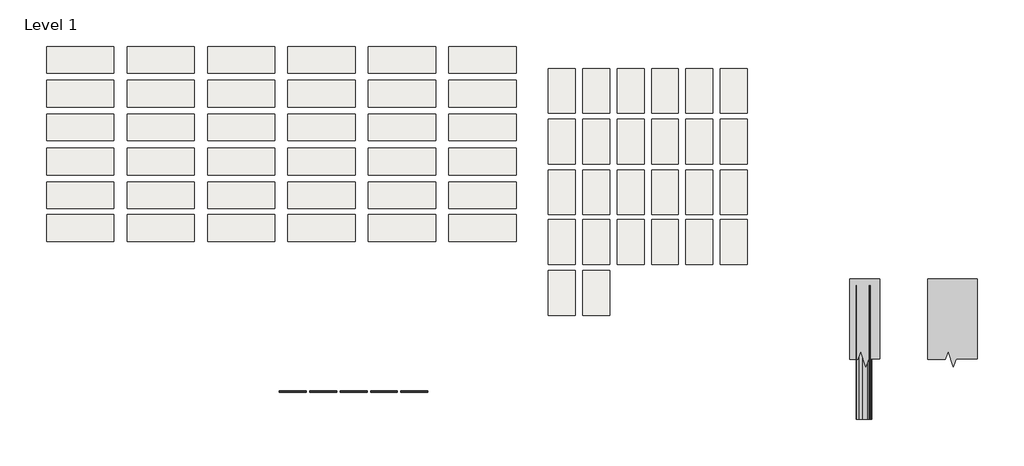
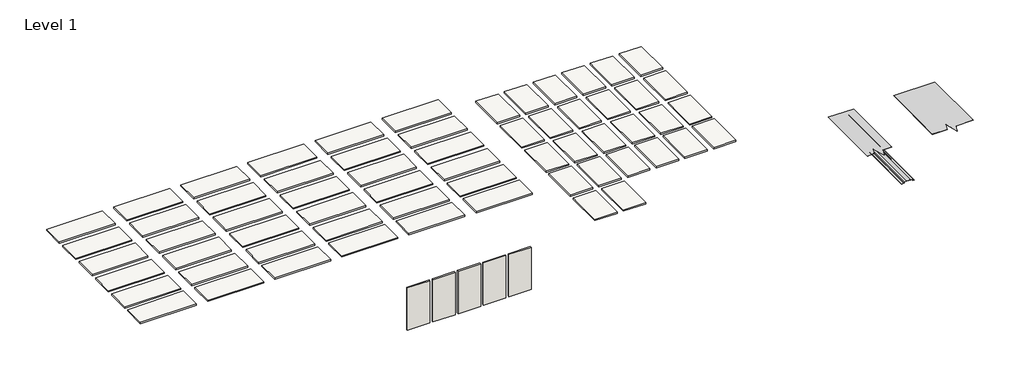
# One storey: 62 slabs, 5 walls, 3 proxies.
"""IFC4 building model written with IfcOpenShell, lengths in millimetres."""

from ifc_helpers import new_model, si_unit, frame, origin, origin_with_axes, place, context, project, spatial, polyline, outline, extrude, transform, mapped, element, save
from components import proxy_6c993777, section_mask1_section_mask_d04c1bcf, section_mask2_section_mask_c10595b2

model = new_model("IFC4")

# Units and contexts
model_context = context("Model", 3, world=origin())
ifc_project = project(units=[si_unit("LENGTHUNIT", "METRE", prefix="MILLI")], contexts=[model_context])

# Site, building, storey
site = spatial("IfcSite", under=ifc_project)
building = spatial("IfcBuilding", under=site)
storey = spatial("IfcBuildingStorey", under=building, Name="Level 1", Elevation=0.0)

# Proxies
placement = place(None, origin())
proxy_shape = proxy_6c993777(model_context)
element("IfcBuildingElementProxy", 1, Name="Metal_Siding_Reveal-Wall-Panel_Steelscape : 12\" Reveal Wall Panel", ObjectType="Metal_Siding_Reveal-Wall-Panel_Steelscape : 12\" Reveal Wall Panel", at=placement, inside=storey, context=model_context, shape_type="MappedRepresentation", body=[
    mapped(proxy_shape, transform((8066.2424454, 2573.2522943, 0.0), x_axis=(1.0, 0.0, 0.0), y_axis=(0.0, 1.0, 0.0), z_axis=(0.0, 0.0, 1.0))),
])
section_mask1_section_mask_shape = section_mask1_section_mask_d04c1bcf(model_context)
element("IfcBuildingElementProxy", 2, Name="Section Mask1 : Section Mask", ObjectType="Section Mask1 : Section Mask", at=placement, inside=storey, context=model_context, shape_type="MappedRepresentation", body=[
    mapped(section_mask1_section_mask_shape, transform((1955.8, 0.0, 0.0), x_axis=(1.0, 0.0, 0.0), y_axis=(0.0, 1.0, 0.0), z_axis=(0.0, 0.0, 1.0))),
])
section_mask2_section_mask_shape = section_mask2_section_mask_c10595b2(model_context)
element("IfcBuildingElementProxy", 3, Name="Section Mask2 : Section Mask", ObjectType="Section Mask2 : Section Mask", at=placement, inside=storey, context=model_context, shape_type="MappedRepresentation", body=[
    mapped(section_mask2_section_mask_shape, transform((-31.75, 0.0, 0.0), x_axis=(1.0, 0.0, 0.0), y_axis=(0.0, 1.0, 0.0), z_axis=(0.0, 0.0, 1.0))),
])

# Slabs
element("IfcSlab", 4, ObjectType="Metal Siding - PAINTED - Steelscape", at=placement, inside=storey, context=model_context, shape_type="SweptSolid", body=[
    extrude(outline(polyline([(-9006.1610252, 7398.0362798), (-10530.1610252, 7398.0362798), (-10530.1610252, 8007.6362798), (-9006.1610252, 8007.6362798), (-9006.1610252, 7398.0362798)])), frame((0.0, 0.0, -38.1), z_axis=(0.0, 0.0, 1.0), x_axis=(1.0, 0.0, 0.0)), (0.0, 0.0, 1.0), 38.1),
])
element("IfcSlab", 5, ObjectType="Metal Siding - PAINTED - Steelscape", at=placement, inside=storey, context=model_context, shape_type="SweptSolid", body=[
    extrude(outline(polyline([(-9006.1610252, 6629.6862798), (-10530.1610252, 6629.6862798), (-10530.1610252, 7239.2862798), (-9006.1610252, 7239.2862798), (-9006.1610252, 6629.6862798)])), frame((0.0, 0.0, -38.1), z_axis=(0.0, 0.0, 1.0), x_axis=(1.0, 0.0, 0.0)), (0.0, 0.0, 1.0), 38.1),
])
element("IfcSlab", 6, ObjectType="Metal Siding - PAINTED - Steelscape", at=placement, inside=storey, context=model_context, shape_type="SweptSolid", body=[
    extrude(outline(polyline([(-9006.1610252, 5861.3362798), (-10530.1610252, 5861.3362798), (-10530.1610252, 6470.9362798), (-9006.1610252, 6470.9362798), (-9006.1610252, 5861.3362798)])), frame((0.0, 0.0, -38.1), z_axis=(0.0, 0.0, 1.0), x_axis=(1.0, 0.0, 0.0)), (0.0, 0.0, 1.0), 38.1),
])
element("IfcSlab", 7, ObjectType="Metal Siding - PAINTED - Steelscape", at=placement, inside=storey, context=model_context, shape_type="SweptSolid", body=[
    extrude(outline(polyline([(-9006.1610252, 5086.6362798), (-10530.1610252, 5086.6362798), (-10530.1610252, 5696.2362798), (-9006.1610252, 5696.2362798), (-9006.1610252, 5086.6362798)])), frame((0.0, 0.0, -38.1), z_axis=(0.0, 0.0, 1.0), x_axis=(1.0, 0.0, 0.0)), (0.0, 0.0, 1.0), 38.1),
])
element("IfcSlab", 8, ObjectType="Metal Siding - PAINTED - Steelscape", at=placement, inside=storey, context=model_context, shape_type="SweptSolid", body=[
    extrude(outline(polyline([(-9006.1610252, 4318.2862798), (-10530.1610252, 4318.2862798), (-10530.1610252, 4927.8862798), (-9006.1610252, 4927.8862798), (-9006.1610252, 4318.2862798)])), frame((0.0, 0.0, -38.1), z_axis=(0.0, 0.0, 1.0), x_axis=(1.0, 0.0, 0.0)), (0.0, 0.0, 1.0), 38.1),
])
element("IfcSlab", 9, ObjectType="Metal Siding - PAINTED - Steelscape", at=placement, inside=storey, context=model_context, shape_type="SweptSolid", body=[
    extrude(outline(polyline([(-9006.1610252, 3575.3362798), (-10530.1610252, 3575.3362798), (-10530.1610252, 4184.9362798), (-9006.1610252, 4184.9362798), (-9006.1610252, 3575.3362798)])), frame((0.0, 0.0, -38.1), z_axis=(0.0, 0.0, 1.0), x_axis=(1.0, 0.0, 0.0)), (0.0, 0.0, 1.0), 38.1),
])
element("IfcSlab", 10, ObjectType="Metal Siding - PAINTED - Steelscape", at=placement, inside=storey, context=model_context, shape_type="SweptSolid", body=[
    extrude(outline(polyline([(-7177.3610252, 7398.0362798), (-8701.3610252, 7398.0362798), (-8701.3610252, 8007.6362798), (-7177.3610252, 8007.6362798), (-7177.3610252, 7398.0362798)])), frame((0.0, 0.0, -38.1), z_axis=(0.0, 0.0, 1.0), x_axis=(1.0, 0.0, 0.0)), (0.0, 0.0, 1.0), 38.1),
])
element("IfcSlab", 11, ObjectType="Metal Siding - PAINTED - Steelscape", at=placement, inside=storey, context=model_context, shape_type="SweptSolid", body=[
    extrude(outline(polyline([(-7177.3610252, 6629.6862798), (-8701.3610252, 6629.6862798), (-8701.3610252, 7239.2862798), (-7177.3610252, 7239.2862798), (-7177.3610252, 6629.6862798)])), frame((0.0, 0.0, -38.1), z_axis=(0.0, 0.0, 1.0), x_axis=(1.0, 0.0, 0.0)), (0.0, 0.0, 1.0), 38.1),
])
element("IfcSlab", 12, ObjectType="Metal Siding - PAINTED - Steelscape", at=placement, inside=storey, context=model_context, shape_type="SweptSolid", body=[
    extrude(outline(polyline([(-7177.3610252, 5861.3362798), (-8701.3610252, 5861.3362798), (-8701.3610252, 6470.9362798), (-7177.3610252, 6470.9362798), (-7177.3610252, 5861.3362798)])), frame((0.0, 0.0, -38.1), z_axis=(0.0, 0.0, 1.0), x_axis=(1.0, 0.0, 0.0)), (0.0, 0.0, 1.0), 38.1),
])
element("IfcSlab", 13, ObjectType="Metal Siding - PAINTED - Steelscape", at=placement, inside=storey, context=model_context, shape_type="SweptSolid", body=[
    extrude(outline(polyline([(-7177.3610252, 5086.6362798), (-8701.3610252, 5086.6362798), (-8701.3610252, 5696.2362798), (-7177.3610252, 5696.2362798), (-7177.3610252, 5086.6362798)])), frame((0.0, 0.0, -38.1), z_axis=(0.0, 0.0, 1.0), x_axis=(1.0, 0.0, 0.0)), (0.0, 0.0, 1.0), 38.1),
])
element("IfcSlab", 14, ObjectType="Metal Siding - PAINTED - Steelscape", at=placement, inside=storey, context=model_context, shape_type="SweptSolid", body=[
    extrude(outline(polyline([(-7177.3610252, 4318.2862798), (-8701.3610252, 4318.2862798), (-8701.3610252, 4927.8862798), (-7177.3610252, 4927.8862798), (-7177.3610252, 4318.2862798)])), frame((0.0, 0.0, -38.1), z_axis=(0.0, 0.0, 1.0), x_axis=(1.0, 0.0, 0.0)), (0.0, 0.0, 1.0), 38.1),
])
element("IfcSlab", 15, ObjectType="Metal Siding - PAINTED - Steelscape", at=placement, inside=storey, context=model_context, shape_type="SweptSolid", body=[
    extrude(outline(polyline([(-7177.3610252, 3575.3362798), (-8701.3610252, 3575.3362798), (-8701.3610252, 4184.9362798), (-7177.3610252, 4184.9362798), (-7177.3610252, 3575.3362798)])), frame((0.0, 0.0, -38.1), z_axis=(0.0, 0.0, 1.0), x_axis=(1.0, 0.0, 0.0)), (0.0, 0.0, 1.0), 38.1),
])
element("IfcSlab", 16, ObjectType="Metal Siding - PAINTED - Steelscape", at=placement, inside=storey, context=model_context, shape_type="SweptSolid", body=[
    extrude(outline(polyline([(-5348.5610252, 7398.0362798), (-6872.5610252, 7398.0362798), (-6872.5610252, 8007.6362798), (-5348.5610252, 8007.6362798), (-5348.5610252, 7398.0362798)])), frame((0.0, 0.0, -38.1), z_axis=(0.0, 0.0, 1.0), x_axis=(1.0, 0.0, 0.0)), (0.0, 0.0, 1.0), 38.1),
])
element("IfcSlab", 17, ObjectType="Metal Siding - PAINTED - Steelscape", at=placement, inside=storey, context=model_context, shape_type="SweptSolid", body=[
    extrude(outline(polyline([(-5348.5610252, 6629.6862798), (-6872.5610252, 6629.6862798), (-6872.5610252, 7239.2862798), (-5348.5610252, 7239.2862798), (-5348.5610252, 6629.6862798)])), frame((0.0, 0.0, -38.1), z_axis=(0.0, 0.0, 1.0), x_axis=(1.0, 0.0, 0.0)), (0.0, 0.0, 1.0), 38.1),
])
element("IfcSlab", 18, ObjectType="Metal Siding - PAINTED - Steelscape", at=placement, inside=storey, context=model_context, shape_type="SweptSolid", body=[
    extrude(outline(polyline([(-5348.5610252, 5861.3362798), (-6872.5610252, 5861.3362798), (-6872.5610252, 6470.9362798), (-5348.5610252, 6470.9362798), (-5348.5610252, 5861.3362798)])), frame((0.0, 0.0, -38.1), z_axis=(0.0, 0.0, 1.0), x_axis=(1.0, 0.0, 0.0)), (0.0, 0.0, 1.0), 38.1),
])
element("IfcSlab", 19, ObjectType="Metal Siding - PAINTED - Steelscape", at=placement, inside=storey, context=model_context, shape_type="SweptSolid", body=[
    extrude(outline(polyline([(-5348.5610252, 5086.6362798), (-6872.5610252, 5086.6362798), (-6872.5610252, 5696.2362798), (-5348.5610252, 5696.2362798), (-5348.5610252, 5086.6362798)])), frame((0.0, 0.0, -38.1), z_axis=(0.0, 0.0, 1.0), x_axis=(1.0, 0.0, 0.0)), (0.0, 0.0, 1.0), 38.1),
])
element("IfcSlab", 20, ObjectType="Metal Siding - PAINTED - Steelscape", at=placement, inside=storey, context=model_context, shape_type="SweptSolid", body=[
    extrude(outline(polyline([(-5348.5610252, 4318.2862798), (-6872.5610252, 4318.2862798), (-6872.5610252, 4927.8862798), (-5348.5610252, 4927.8862798), (-5348.5610252, 4318.2862798)])), frame((0.0, 0.0, -38.1), z_axis=(0.0, 0.0, 1.0), x_axis=(1.0, 0.0, 0.0)), (0.0, 0.0, 1.0), 38.1),
])
element("IfcSlab", 21, ObjectType="Metal Siding - PAINTED - Steelscape", at=placement, inside=storey, context=model_context, shape_type="SweptSolid", body=[
    extrude(outline(polyline([(-5348.5610252, 3575.3362798), (-6872.5610252, 3575.3362798), (-6872.5610252, 4184.9362798), (-5348.5610252, 4184.9362798), (-5348.5610252, 3575.3362798)])), frame((0.0, 0.0, -38.1), z_axis=(0.0, 0.0, 1.0), x_axis=(1.0, 0.0, 0.0)), (0.0, 0.0, 1.0), 38.1),
])
element("IfcSlab", 22, ObjectType="Metal Siding - PAINTED - Steelscape", at=placement, inside=storey, context=model_context, shape_type="SweptSolid", body=[
    extrude(outline(polyline([(-3519.7610252, 7398.0362798), (-5043.7610252, 7398.0362798), (-5043.7610252, 8007.6362798), (-3519.7610252, 8007.6362798), (-3519.7610252, 7398.0362798)])), frame((0.0, 0.0, -38.1), z_axis=(0.0, 0.0, 1.0), x_axis=(1.0, 0.0, 0.0)), (0.0, 0.0, 1.0), 38.1),
])
element("IfcSlab", 23, ObjectType="Metal Siding - PAINTED - Steelscape", at=placement, inside=storey, context=model_context, shape_type="SweptSolid", body=[
    extrude(outline(polyline([(-3519.7610252, 6629.6862798), (-5043.7610252, 6629.6862798), (-5043.7610252, 7239.2862798), (-3519.7610252, 7239.2862798), (-3519.7610252, 6629.6862798)])), frame((0.0, 0.0, -38.1), z_axis=(0.0, 0.0, 1.0), x_axis=(1.0, 0.0, 0.0)), (0.0, 0.0, 1.0), 38.1),
])
element("IfcSlab", 24, ObjectType="Metal Siding - PAINTED - Steelscape", at=placement, inside=storey, context=model_context, shape_type="SweptSolid", body=[
    extrude(outline(polyline([(-3519.7610252, 5861.3362798), (-5043.7610252, 5861.3362798), (-5043.7610252, 6470.9362798), (-3519.7610252, 6470.9362798), (-3519.7610252, 5861.3362798)])), frame((0.0, 0.0, -38.1), z_axis=(0.0, 0.0, 1.0), x_axis=(1.0, 0.0, 0.0)), (0.0, 0.0, 1.0), 38.1),
])
element("IfcSlab", 25, ObjectType="Metal Siding - PAINTED - Steelscape", at=placement, inside=storey, context=model_context, shape_type="SweptSolid", body=[
    extrude(outline(polyline([(-3519.7610252, 5086.6362798), (-5043.7610252, 5086.6362798), (-5043.7610252, 5696.2362798), (-3519.7610252, 5696.2362798), (-3519.7610252, 5086.6362798)])), frame((0.0, 0.0, -38.1), z_axis=(0.0, 0.0, 1.0), x_axis=(1.0, 0.0, 0.0)), (0.0, 0.0, 1.0), 38.1),
])
element("IfcSlab", 26, ObjectType="Metal Siding - PAINTED - Steelscape", at=placement, inside=storey, context=model_context, shape_type="SweptSolid", body=[
    extrude(outline(polyline([(-3519.7610252, 4318.2862798), (-5043.7610252, 4318.2862798), (-5043.7610252, 4927.8862798), (-3519.7610252, 4927.8862798), (-3519.7610252, 4318.2862798)])), frame((0.0, 0.0, -38.1), z_axis=(0.0, 0.0, 1.0), x_axis=(1.0, 0.0, 0.0)), (0.0, 0.0, 1.0), 38.1),
])
element("IfcSlab", 27, ObjectType="Metal Siding - PAINTED - Steelscape", at=placement, inside=storey, context=model_context, shape_type="SweptSolid", body=[
    extrude(outline(polyline([(-3519.7610252, 3575.3362798), (-5043.7610252, 3575.3362798), (-5043.7610252, 4184.9362798), (-3519.7610252, 4184.9362798), (-3519.7610252, 3575.3362798)])), frame((0.0, 0.0, -38.1), z_axis=(0.0, 0.0, 1.0), x_axis=(1.0, 0.0, 0.0)), (0.0, 0.0, 1.0), 38.1),
])
element("IfcSlab", 28, ObjectType="Metal Siding - PAINTED - Steelscape", at=placement, inside=storey, context=model_context, shape_type="SweptSolid", body=[
    extrude(outline(polyline([(-1690.9610252, 7398.0362798), (-3214.9610252, 7398.0362798), (-3214.9610252, 8007.6362798), (-1690.9610252, 8007.6362798), (-1690.9610252, 7398.0362798)])), frame((0.0, 0.0, -38.1), z_axis=(0.0, 0.0, 1.0), x_axis=(1.0, 0.0, 0.0)), (0.0, 0.0, 1.0), 38.1),
])
element("IfcSlab", 29, ObjectType="Metal Siding - PAINTED - Steelscape", at=placement, inside=storey, context=model_context, shape_type="SweptSolid", body=[
    extrude(outline(polyline([(-1690.9610252, 6629.6862798), (-3214.9610252, 6629.6862798), (-3214.9610252, 7239.2862798), (-1690.9610252, 7239.2862798), (-1690.9610252, 6629.6862798)])), frame((0.0, 0.0, -38.1), z_axis=(0.0, 0.0, 1.0), x_axis=(1.0, 0.0, 0.0)), (0.0, 0.0, 1.0), 38.1),
])
element("IfcSlab", 30, ObjectType="Metal Siding - PAINTED - Steelscape", at=placement, inside=storey, context=model_context, shape_type="SweptSolid", body=[
    extrude(outline(polyline([(-1690.9610252, 5861.3362798), (-3214.9610252, 5861.3362798), (-3214.9610252, 6470.9362798), (-1690.9610252, 6470.9362798), (-1690.9610252, 5861.3362798)])), frame((0.0, 0.0, -38.1), z_axis=(0.0, 0.0, 1.0), x_axis=(1.0, 0.0, 0.0)), (0.0, 0.0, 1.0), 38.1),
])
element("IfcSlab", 31, ObjectType="Metal Siding - PAINTED - Steelscape", at=placement, inside=storey, context=model_context, shape_type="SweptSolid", body=[
    extrude(outline(polyline([(-1690.9610252, 5086.6362798), (-3214.9610252, 5086.6362798), (-3214.9610252, 5696.2362798), (-1690.9610252, 5696.2362798), (-1690.9610252, 5086.6362798)])), frame((0.0, 0.0, -38.1), z_axis=(0.0, 0.0, 1.0), x_axis=(1.0, 0.0, 0.0)), (0.0, 0.0, 1.0), 38.1),
])
element("IfcSlab", 32, ObjectType="Metal Siding - PAINTED - Steelscape", at=placement, inside=storey, context=model_context, shape_type="SweptSolid", body=[
    extrude(outline(polyline([(-1690.9610252, 4318.2862798), (-3214.9610252, 4318.2862798), (-3214.9610252, 4927.8862798), (-1690.9610252, 4927.8862798), (-1690.9610252, 4318.2862798)])), frame((0.0, 0.0, -38.1), z_axis=(0.0, 0.0, 1.0), x_axis=(1.0, 0.0, 0.0)), (0.0, 0.0, 1.0), 38.1),
])
element("IfcSlab", 33, ObjectType="Metal Siding - PAINTED - Steelscape", at=placement, inside=storey, context=model_context, shape_type="SweptSolid", body=[
    extrude(outline(polyline([(-1690.9610252, 3575.3362798), (-3214.9610252, 3575.3362798), (-3214.9610252, 4184.9362798), (-1690.9610252, 4184.9362798), (-1690.9610252, 3575.3362798)])), frame((0.0, 0.0, -38.1), z_axis=(0.0, 0.0, 1.0), x_axis=(1.0, 0.0, 0.0)), (0.0, 0.0, 1.0), 38.1),
])
element("IfcSlab", 34, ObjectType="Metal Siding - PAINTED - Steelscape", at=placement, inside=storey, context=model_context, shape_type="SweptSolid", body=[
    extrude(outline(polyline([(137.8389748, 7398.0362798), (-1386.1610252, 7398.0362798), (-1386.1610252, 8007.6362798), (137.8389748, 8007.6362798), (137.8389748, 7398.0362798)])), frame((0.0, 0.0, -38.1), z_axis=(0.0, 0.0, 1.0), x_axis=(1.0, 0.0, 0.0)), (0.0, 0.0, 1.0), 38.1),
])
element("IfcSlab", 35, ObjectType="Metal Siding - PAINTED - Steelscape", at=placement, inside=storey, context=model_context, shape_type="SweptSolid", body=[
    extrude(outline(polyline([(137.8389748, 6629.6862798), (-1386.1610252, 6629.6862798), (-1386.1610252, 7239.2862798), (137.8389748, 7239.2862798), (137.8389748, 6629.6862798)])), frame((0.0, 0.0, -38.1), z_axis=(0.0, 0.0, 1.0), x_axis=(1.0, 0.0, 0.0)), (0.0, 0.0, 1.0), 38.1),
])
element("IfcSlab", 36, ObjectType="Metal Siding - PAINTED - Steelscape", at=placement, inside=storey, context=model_context, shape_type="SweptSolid", body=[
    extrude(outline(polyline([(137.8389748, 5861.3362798), (-1386.1610252, 5861.3362798), (-1386.1610252, 6470.9362798), (137.8389748, 6470.9362798), (137.8389748, 5861.3362798)])), frame((0.0, 0.0, -38.1), z_axis=(0.0, 0.0, 1.0), x_axis=(1.0, 0.0, 0.0)), (0.0, 0.0, 1.0), 38.1),
])
element("IfcSlab", 37, ObjectType="Metal Siding - PAINTED - Steelscape", at=placement, inside=storey, context=model_context, shape_type="SweptSolid", body=[
    extrude(outline(polyline([(137.8389748, 5086.6362798), (-1386.1610252, 5086.6362798), (-1386.1610252, 5696.2362798), (137.8389748, 5696.2362798), (137.8389748, 5086.6362798)])), frame((0.0, 0.0, -38.1), z_axis=(0.0, 0.0, 1.0), x_axis=(1.0, 0.0, 0.0)), (0.0, 0.0, 1.0), 38.1),
])
element("IfcSlab", 38, ObjectType="Metal Siding - PAINTED - Steelscape", at=placement, inside=storey, context=model_context, shape_type="SweptSolid", body=[
    extrude(outline(polyline([(137.8389748, 4318.2862798), (-1386.1610252, 4318.2862798), (-1386.1610252, 4927.8862798), (137.8389748, 4927.8862798), (137.8389748, 4318.2862798)])), frame((0.0, 0.0, -38.1), z_axis=(0.0, 0.0, 1.0), x_axis=(1.0, 0.0, 0.0)), (0.0, 0.0, 1.0), 38.1),
])
element("IfcSlab", 39, ObjectType="Metal Siding - PAINTED - Steelscape", at=placement, inside=storey, context=model_context, shape_type="SweptSolid", body=[
    extrude(outline(polyline([(137.8389748, 3575.3362798), (-1386.1610252, 3575.3362798), (-1386.1610252, 4184.9362798), (137.8389748, 4184.9362798), (137.8389748, 3575.3362798)])), frame((0.0, 0.0, -38.1), z_axis=(0.0, 0.0, 1.0), x_axis=(1.0, 0.0, 0.0)), (0.0, 0.0, 1.0), 38.1),
])
element("IfcSlab", 40, ObjectType="AEP Span Material Sample", at=placement, inside=storey, context=model_context, shape_type="SweptSolid", body=[
    extrude(outline(polyline([(1485.5495194, 6492.0895229), (875.9495194, 6492.0895229), (875.9495194, 7508.0895229), (1485.5495194, 7508.0895229), (1485.5495194, 6492.0895229)])), frame((0.0, 0.0, -38.1), z_axis=(0.0, 0.0, 1.0), x_axis=(1.0, 0.0, 0.0)), (0.0, 0.0, 1.0), 38.1),
])
element("IfcSlab", 41, ObjectType="AEP Span Material Sample", at=placement, inside=storey, context=model_context, shape_type="SweptSolid", body=[
    extrude(outline(polyline([(2266.5995194, 6492.0895229), (1656.9995194, 6492.0895229), (1656.9995194, 7508.0895229), (2266.5995194, 7508.0895229), (2266.5995194, 6492.0895229)])), frame((0.0, 0.0, -38.1), z_axis=(0.0, 0.0, 1.0), x_axis=(1.0, 0.0, 0.0)), (0.0, 0.0, 1.0), 38.1),
])
element("IfcSlab", 42, ObjectType="AEP Span Material Sample", at=placement, inside=storey, context=model_context, shape_type="SweptSolid", body=[
    extrude(outline(polyline([(3047.6495194, 6492.0895229), (2438.0495194, 6492.0895229), (2438.0495194, 7508.0895229), (3047.6495194, 7508.0895229), (3047.6495194, 6492.0895229)])), frame((0.0, 0.0, -38.1), z_axis=(0.0, 0.0, 1.0), x_axis=(1.0, 0.0, 0.0)), (0.0, 0.0, 1.0), 38.1),
])
element("IfcSlab", 43, ObjectType="AEP Span Material Sample", at=placement, inside=storey, context=model_context, shape_type="SweptSolid", body=[
    extrude(outline(polyline([(3828.6995194, 6492.0895229), (3219.0995194, 6492.0895229), (3219.0995194, 7508.0895229), (3828.6995194, 7508.0895229), (3828.6995194, 6492.0895229)])), frame((0.0, 0.0, -38.1), z_axis=(0.0, 0.0, 1.0), x_axis=(1.0, 0.0, 0.0)), (0.0, 0.0, 1.0), 38.1),
])
element("IfcSlab", 44, ObjectType="AEP Span Material Sample", at=placement, inside=storey, context=model_context, shape_type="SweptSolid", body=[
    extrude(outline(polyline([(4609.7495194, 6492.0895229), (4000.1495194, 6492.0895229), (4000.1495194, 7508.0895229), (4609.7495194, 7508.0895229), (4609.7495194, 6492.0895229)])), frame((0.0, 0.0, -38.1), z_axis=(0.0, 0.0, 1.0), x_axis=(1.0, 0.0, 0.0)), (0.0, 0.0, 1.0), 38.1),
])
element("IfcSlab", 45, ObjectType="AEP Span Material Sample", at=placement, inside=storey, context=model_context, shape_type="SweptSolid", body=[
    extrude(outline(polyline([(5390.7995194, 6492.0895229), (4781.1995194, 6492.0895229), (4781.1995194, 7508.0895229), (5390.7995194, 7508.0895229), (5390.7995194, 6492.0895229)])), frame((0.0, 0.0, -38.1), z_axis=(0.0, 0.0, 1.0), x_axis=(1.0, 0.0, 0.0)), (0.0, 0.0, 1.0), 38.1),
])
element("IfcSlab", 46, ObjectType="AEP Span Material Sample", at=placement, inside=storey, context=model_context, shape_type="SweptSolid", body=[
    extrude(outline(polyline([(1485.5495194, 5336.3895229), (875.9495194, 5336.3895229), (875.9495194, 6352.3895229), (1485.5495194, 6352.3895229), (1485.5495194, 5336.3895229)])), frame((0.0, 0.0, -38.1), z_axis=(0.0, 0.0, 1.0), x_axis=(1.0, 0.0, 0.0)), (0.0, 0.0, 1.0), 38.1),
])
element("IfcSlab", 47, ObjectType="AEP Span Material Sample", at=placement, inside=storey, context=model_context, shape_type="SweptSolid", body=[
    extrude(outline(polyline([(2266.5995194, 5336.3895229), (1656.9995194, 5336.3895229), (1656.9995194, 6352.3895229), (2266.5995194, 6352.3895229), (2266.5995194, 5336.3895229)])), frame((0.0, 0.0, -38.1), z_axis=(0.0, 0.0, 1.0), x_axis=(1.0, 0.0, 0.0)), (0.0, 0.0, 1.0), 38.1),
])
element("IfcSlab", 48, ObjectType="AEP Span Material Sample", at=placement, inside=storey, context=model_context, shape_type="SweptSolid", body=[
    extrude(outline(polyline([(3047.6495194, 5336.3895229), (2438.0495194, 5336.3895229), (2438.0495194, 6352.3895229), (3047.6495194, 6352.3895229), (3047.6495194, 5336.3895229)])), frame((0.0, 0.0, -38.1), z_axis=(0.0, 0.0, 1.0), x_axis=(1.0, 0.0, 0.0)), (0.0, 0.0, 1.0), 38.1),
])
element("IfcSlab", 49, ObjectType="AEP Span Material Sample", at=placement, inside=storey, context=model_context, shape_type="SweptSolid", body=[
    extrude(outline(polyline([(3828.6995194, 5336.3895229), (3219.0995194, 5336.3895229), (3219.0995194, 6352.3895229), (3828.6995194, 6352.3895229), (3828.6995194, 5336.3895229)])), frame((0.0, 0.0, -38.1), z_axis=(0.0, 0.0, 1.0), x_axis=(1.0, 0.0, 0.0)), (0.0, 0.0, 1.0), 38.1),
])
element("IfcSlab", 50, ObjectType="AEP Span Material Sample", at=placement, inside=storey, context=model_context, shape_type="SweptSolid", body=[
    extrude(outline(polyline([(4609.7495194, 5336.3895229), (4000.1495194, 5336.3895229), (4000.1495194, 6352.3895229), (4609.7495194, 6352.3895229), (4609.7495194, 5336.3895229)])), frame((0.0, 0.0, -38.1), z_axis=(0.0, 0.0, 1.0), x_axis=(1.0, 0.0, 0.0)), (0.0, 0.0, 1.0), 38.1),
])
element("IfcSlab", 51, ObjectType="AEP Span Material Sample", at=placement, inside=storey, context=model_context, shape_type="SweptSolid", body=[
    extrude(outline(polyline([(5390.7995194, 5336.3895229), (4781.1995194, 5336.3895229), (4781.1995194, 6352.3895229), (5390.7995194, 6352.3895229), (5390.7995194, 5336.3895229)])), frame((0.0, 0.0, -38.1), z_axis=(0.0, 0.0, 1.0), x_axis=(1.0, 0.0, 0.0)), (0.0, 0.0, 1.0), 38.1),
])
element("IfcSlab", 52, ObjectType="AEP Span Material Sample", at=placement, inside=storey, context=model_context, shape_type="SweptSolid", body=[
    extrude(outline(polyline([(1485.5495194, 4180.6895229), (875.9495194, 4180.6895229), (875.9495194, 5196.6895229), (1485.5495194, 5196.6895229), (1485.5495194, 4180.6895229)])), frame((0.0, 0.0, -38.1), z_axis=(0.0, 0.0, 1.0), x_axis=(1.0, 0.0, 0.0)), (0.0, 0.0, 1.0), 38.1),
])
element("IfcSlab", 53, ObjectType="AEP Span Material Sample", at=placement, inside=storey, context=model_context, shape_type="SweptSolid", body=[
    extrude(outline(polyline([(2266.5995194, 4180.6895229), (1656.9995194, 4180.6895229), (1656.9995194, 5196.6895229), (2266.5995194, 5196.6895229), (2266.5995194, 4180.6895229)])), frame((0.0, 0.0, -38.1), z_axis=(0.0, 0.0, 1.0), x_axis=(1.0, 0.0, 0.0)), (0.0, 0.0, 1.0), 38.1),
])
element("IfcSlab", 54, ObjectType="AEP Span Material Sample", at=placement, inside=storey, context=model_context, shape_type="SweptSolid", body=[
    extrude(outline(polyline([(3047.6495194, 4180.6895229), (2438.0495194, 4180.6895229), (2438.0495194, 5196.6895229), (3047.6495194, 5196.6895229), (3047.6495194, 4180.6895229)])), frame((0.0, 0.0, -38.1), z_axis=(0.0, 0.0, 1.0), x_axis=(1.0, 0.0, 0.0)), (0.0, 0.0, 1.0), 38.1),
])
element("IfcSlab", 55, ObjectType="AEP Span Material Sample", at=placement, inside=storey, context=model_context, shape_type="SweptSolid", body=[
    extrude(outline(polyline([(3828.6995194, 4180.6895229), (3219.0995194, 4180.6895229), (3219.0995194, 5196.6895229), (3828.6995194, 5196.6895229), (3828.6995194, 4180.6895229)])), frame((0.0, 0.0, -38.1), z_axis=(0.0, 0.0, 1.0), x_axis=(1.0, 0.0, 0.0)), (0.0, 0.0, 1.0), 38.1),
])
element("IfcSlab", 56, ObjectType="AEP Span Material Sample", at=placement, inside=storey, context=model_context, shape_type="SweptSolid", body=[
    extrude(outline(polyline([(4609.7495194, 4180.6895229), (4000.1495194, 4180.6895229), (4000.1495194, 5196.6895229), (4609.7495194, 5196.6895229), (4609.7495194, 4180.6895229)])), frame((0.0, 0.0, -38.1), z_axis=(0.0, 0.0, 1.0), x_axis=(1.0, 0.0, 0.0)), (0.0, 0.0, 1.0), 38.1),
])
element("IfcSlab", 57, ObjectType="AEP Span Material Sample", at=placement, inside=storey, context=model_context, shape_type="SweptSolid", body=[
    extrude(outline(polyline([(5390.7995194, 4180.6895229), (4781.1995194, 4180.6895229), (4781.1995194, 5196.6895229), (5390.7995194, 5196.6895229), (5390.7995194, 4180.6895229)])), frame((0.0, 0.0, -38.1), z_axis=(0.0, 0.0, 1.0), x_axis=(1.0, 0.0, 0.0)), (0.0, 0.0, 1.0), 38.1),
])
element("IfcSlab", 58, ObjectType="AEP Span Material Sample", at=placement, inside=storey, context=model_context, shape_type="SweptSolid", body=[
    extrude(outline(polyline([(1485.5495194, 3050.3895229), (875.9495194, 3050.3895229), (875.9495194, 4066.3895229), (1485.5495194, 4066.3895229), (1485.5495194, 3050.3895229)])), frame((0.0, 0.0, -38.1), z_axis=(0.0, 0.0, 1.0), x_axis=(1.0, 0.0, 0.0)), (0.0, 0.0, 1.0), 38.1),
])
element("IfcSlab", 59, ObjectType="AEP Span Material Sample", at=placement, inside=storey, context=model_context, shape_type="SweptSolid", body=[
    extrude(outline(polyline([(2266.5995194, 3050.3895229), (1656.9995194, 3050.3895229), (1656.9995194, 4066.3895229), (2266.5995194, 4066.3895229), (2266.5995194, 3050.3895229)])), frame((0.0, 0.0, -38.1), z_axis=(0.0, 0.0, 1.0), x_axis=(1.0, 0.0, 0.0)), (0.0, 0.0, 1.0), 38.1),
])
element("IfcSlab", 60, ObjectType="AEP Span Material Sample", at=placement, inside=storey, context=model_context, shape_type="SweptSolid", body=[
    extrude(outline(polyline([(3047.6495194, 3050.3895229), (2438.0495194, 3050.3895229), (2438.0495194, 4066.3895229), (3047.6495194, 4066.3895229), (3047.6495194, 3050.3895229)])), frame((0.0, 0.0, -38.1), z_axis=(0.0, 0.0, 1.0), x_axis=(1.0, 0.0, 0.0)), (0.0, 0.0, 1.0), 38.1),
])
element("IfcSlab", 61, ObjectType="AEP Span Material Sample", at=placement, inside=storey, context=model_context, shape_type="SweptSolid", body=[
    extrude(outline(polyline([(3828.6995194, 3050.3895229), (3219.0995194, 3050.3895229), (3219.0995194, 4066.3895229), (3828.6995194, 4066.3895229), (3828.6995194, 3050.3895229)])), frame((0.0, 0.0, -38.1), z_axis=(0.0, 0.0, 1.0), x_axis=(1.0, 0.0, 0.0)), (0.0, 0.0, 1.0), 38.1),
])
element("IfcSlab", 62, ObjectType="AEP Span Material Sample", at=placement, inside=storey, context=model_context, shape_type="SweptSolid", body=[
    extrude(outline(polyline([(4609.7495194, 3050.3895229), (4000.1495194, 3050.3895229), (4000.1495194, 4066.3895229), (4609.7495194, 4066.3895229), (4609.7495194, 3050.3895229)])), frame((0.0, 0.0, -38.1), z_axis=(0.0, 0.0, 1.0), x_axis=(1.0, 0.0, 0.0)), (0.0, 0.0, 1.0), 38.1),
])
element("IfcSlab", 63, ObjectType="AEP Span Material Sample", at=placement, inside=storey, context=model_context, shape_type="SweptSolid", body=[
    extrude(outline(polyline([(5390.7995194, 3050.3895229), (4781.1995194, 3050.3895229), (4781.1995194, 4066.3895229), (5390.7995194, 4066.3895229), (5390.7995194, 3050.3895229)])), frame((0.0, 0.0, -38.1), z_axis=(0.0, 0.0, 1.0), x_axis=(1.0, 0.0, 0.0)), (0.0, 0.0, 1.0), 38.1),
])
element("IfcSlab", 64, ObjectType="AEP Span Material Sample", at=placement, inside=storey, context=model_context, shape_type="SweptSolid", body=[
    extrude(outline(polyline([(1485.5495194, 1894.6895229), (875.9495194, 1894.6895229), (875.9495194, 2910.6895229), (1485.5495194, 2910.6895229), (1485.5495194, 1894.6895229)])), frame((0.0, 0.0, -38.1), z_axis=(0.0, 0.0, 1.0), x_axis=(1.0, 0.0, 0.0)), (0.0, 0.0, 1.0), 38.1),
])
element("IfcSlab", 65, ObjectType="AEP Span Material Sample", at=placement, inside=storey, context=model_context, shape_type="SweptSolid", body=[
    extrude(outline(polyline([(2266.5995194, 1894.6895229), (1656.9995194, 1894.6895229), (1656.9995194, 2910.6895229), (2266.5995194, 2910.6895229), (2266.5995194, 1894.6895229)])), frame((0.0, 0.0, -38.1), z_axis=(0.0, 0.0, 1.0), x_axis=(1.0, 0.0, 0.0)), (0.0, 0.0, 1.0), 38.1),
])

# Walls
element("IfcWall", 66, ObjectType="12\" Reveal Wall Panel", at=placement, inside=storey, context=model_context, shape_type="SweptSolid", body=[
    extrude(outline(polyline([(-3937.6388046, 141.2022943), (-4547.2388046, 141.2022943), (-4547.2388046, 179.3022943), (-3937.6388046, 179.3022943), (-3937.6388046, 141.2022943)])), origin_with_axes(), (0.0, 0.0, 1.0), 1219.2),
])
element("IfcWall", 67, ObjectType="12\" Reveal Wall Panel", at=placement, inside=storey, context=model_context, shape_type="SweptSolid", body=[
    extrude(outline(polyline([(-3247.4731796, 141.2022943), (-3857.0731796, 141.2022943), (-3857.0731796, 179.3022943), (-3247.4731796, 179.3022943), (-3247.4731796, 141.2022943)])), origin_with_axes(), (0.0, 0.0, 1.0), 1219.2),
])
element("IfcWall", 68, ObjectType="12\" Reveal Wall Panel", at=placement, inside=storey, context=model_context, shape_type="SweptSolid", body=[
    extrude(outline(polyline([(-2557.3075546, 141.2022943), (-3166.9075546, 141.2022943), (-3166.9075546, 179.3022943), (-2557.3075546, 179.3022943), (-2557.3075546, 141.2022943)])), origin_with_axes(), (0.0, 0.0, 1.0), 1219.2),
])
element("IfcWall", 69, ObjectType="12\" Reveal Wall Panel", at=placement, inside=storey, context=model_context, shape_type="SweptSolid", body=[
    extrude(outline(polyline([(-1867.1419296, 141.2022943), (-2476.7419296, 141.2022943), (-2476.7419296, 179.3022943), (-1867.1419296, 179.3022943), (-1867.1419296, 141.2022943)])), origin_with_axes(), (0.0, 0.0, 1.0), 1219.2),
])
element("IfcWall", 70, ObjectType="12\" Reveal Wall Panel", at=placement, inside=storey, context=model_context, shape_type="SweptSolid", body=[
    extrude(outline(polyline([(-4627.8044296, 141.2022943), (-5237.4044296, 141.2022943), (-5237.4044296, 179.3022943), (-4627.8044296, 179.3022943), (-4627.8044296, 141.2022943)])), origin_with_axes(), (0.0, 0.0, 1.0), 1219.2),
])

save(model, "model.ifc")
